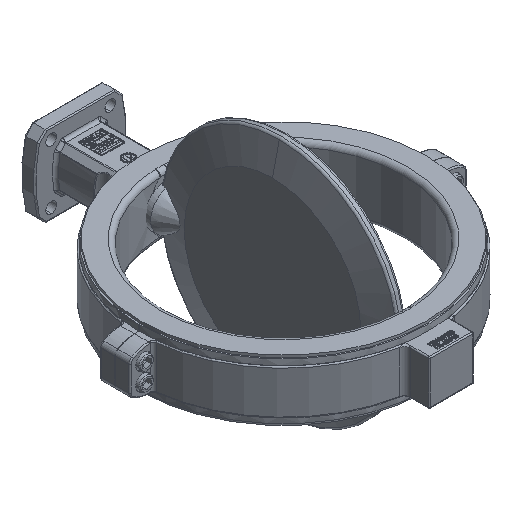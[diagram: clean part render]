
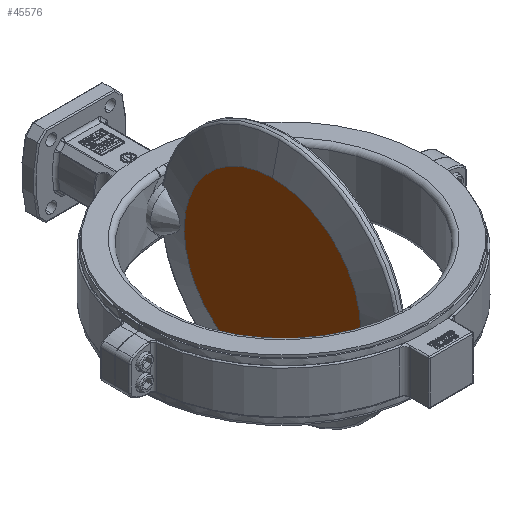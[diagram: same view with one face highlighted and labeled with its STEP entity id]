
A CAD part, isometric view. The second image highlights one B-rep face of the part: STEP entity #45576.
In plain terms, the highlighted planar face has unit normal (-1, 0, 0) as drawn and (0, 0, -1) by its records, which use the part's own axes.
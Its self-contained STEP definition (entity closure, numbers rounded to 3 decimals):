
#44627=CARTESIAN_POINT('',(0.,0.,-18.5));
#44628=DIRECTION('',(0.,0.,1.));
#44629=DIRECTION('',(1.,0.,0.));
#44630=AXIS2_PLACEMENT_3D('',#44627,#44628,#44629);
#44632=CARTESIAN_POINT('',(0.,0.,-18.5));
#44633=DIRECTION('',(0.,0.,1.));
#44634=DIRECTION('',(-1.,0.,0.));
#44635=AXIS2_PLACEMENT_3D('',#44632,#44633,#44634);
#45410=CARTESIAN_POINT('',(148.077,0.,-18.5));
#45412=VERTEX_POINT('',#45410);
#45414=CARTESIAN_POINT('',(-148.077,0.,-18.5));
#45416=VERTEX_POINT('',#45414);
#45567=CARTESIAN_POINT('',(0.,0.,-18.5));
#45568=DIRECTION('',(0.,0.,-1.));
#45569=DIRECTION('',(1.,0.,0.));
#45570=AXIS2_PLACEMENT_3D('',#45567,#45568,#45569);
#45571=PLANE('',#45570);
#45572=ORIENTED_EDGE('',*,*,#45540,.T.);
#45573=ORIENTED_EDGE('',*,*,#45551,.T.);
#45574=EDGE_LOOP('',(#45572,#45573));
#45575=FACE_OUTER_BOUND('',#45574,.F.);
#45576=ADVANCED_FACE('',(#45575),#45571,.T.);
#44631=CIRCLE('',#44630,148.077);
#44636=CIRCLE('',#44635,148.077);
#45540=EDGE_CURVE('',#45412,#45416,#44631,.T.);
#45551=EDGE_CURVE('',#45416,#45412,#44636,.T.);
